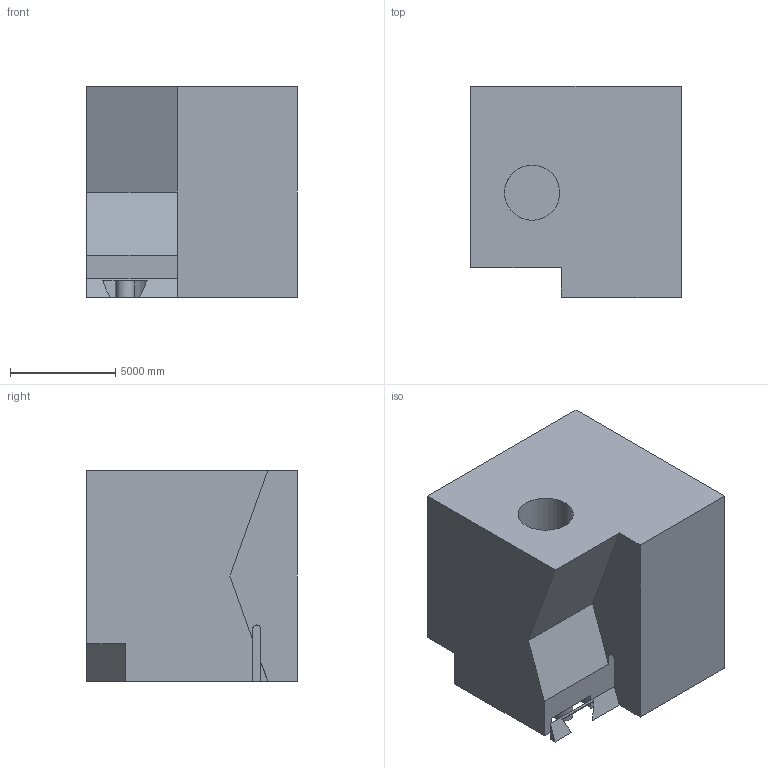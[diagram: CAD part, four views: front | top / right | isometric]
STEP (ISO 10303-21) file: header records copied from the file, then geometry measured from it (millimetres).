
FILE_DESCRIPTION (( 'STEP AP203' ), '1' );
FILE_NAME ('151.STEP', '2022-09-06T13:25:33', ( 'user' ), ( '' ), 'SwSTEP 2.0', 'SolidWorks 2021', '' );
FILE_SCHEMA (( 'CONFIG_CONTROL_DESIGN' ));
Length unit declared in the file: centimetre
Products named in the file (1): 151
Bounding box: 10000 x 10000 x 10000 mm (x, y, z)
Volume: 852125139834.1 mm3; surface area: 685137772.3 mm2
Topology: 1 solids, 1 shells, 39 faces, 102 edges, 68 vertices
Faces by surface type: plane 28, cylinder 11
Entity records: 1275 total; most frequent: CARTESIAN_POINT 216, ORIENTED_EDGE 204, DIRECTION 202, EDGE_CURVE 102, LINE 78, VECTOR 78, VERTEX_POINT 68, AXIS2_PLACEMENT_3D 62
